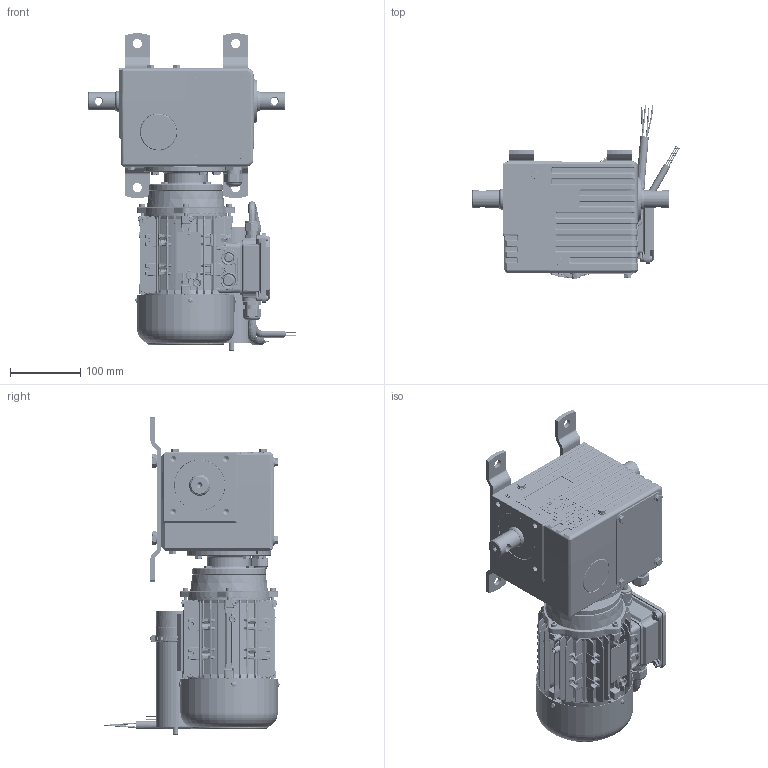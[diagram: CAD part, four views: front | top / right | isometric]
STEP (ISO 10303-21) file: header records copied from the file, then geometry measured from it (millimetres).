
FILE_DESCRIPTION (( 'STEP AP214' ), '1' );
FILE_NAME ('010202609_EWA_12_3D__DE_12212.2503.0636.STEP', '2022-10-04T14:15:28', ( '' ), ( '' ), 'SwSTEP 2.0', 'SolidWorks 2022', '' );
FILE_SCHEMA (( 'AUTOMOTIVE_DESIGN' ));
Length unit declared in the file: millimetre
Products named in the file (25): 010202609_EWA_12_3D__DE_12212.2503.0636; Elektroteil_10014336; Schraube_10028710; Deckel_10000048; Wälzlager_10001868; Montageplatte_10000170; Elektroteil_10014337; Schraube_10014320; 010194287_EWA_12_3D-Modell_DE_10194287; Schraube_10018291; Kennzeichnung_10001854; Dichtelement_10005476; 010192906_EWA_12_3D-Modell_DE_10192906_END 20-90000.0002.6290 m.SB; 010198258_EWA_3D-Modell_DE_10198258; 010191515_Normteil_Kaufteil_3D-Modell_DE_10191515; Elektroteil_10001640; 010200543_EWA_12_3D__DE; Dichtelement_10001203; 010200547_EWA_12_3D__DE_Ohne Inhalt; Schraube_10002078; 010218703_Normteil_Kaufteil_3D__DE_84204.0037.PI01; Elektroantrieb_EWA_10053437_Ohne Inhalt; Scheibe_10002061; Dichtelement_10032469; Elektroteil_10001639
Assembly tree (49 placements, depth 4):
  010202609_EWA_12_3D__DE_12212.2503.0636
    Elektroantrieb_EWA_10053437_Ohne Inhalt
      010192906_EWA_12_3D-Modell_DE_10192906_END 20-90000.0002.6290 m.SB
      Montageplatte_10000170  x2
      Schraube_10028710  x4
      Dichtelement_10001203
      Deckel_10000048
      Elektroteil_10001639
      Elektroteil_10001640
      Elektroteil_10014337
        Elektroteil_10014336
        Elektroteil_10001640
      Schraube_10018291  x4
      Scheibe_10002061  x8
      010191515_Normteil_Kaufteil_3D-Modell_DE_10191515  x4
      Dichtelement_10032469
      Wälzlager_10001868
      Dichtelement_10005476
      010194287_EWA_12_3D-Modell_DE_10194287
    Schraube_10014320
    Schraube_10002078  x4
    Kennzeichnung_10001854
    010200547_EWA_12_3D__DE_Ohne Inhalt
      010200543_EWA_12_3D__DE
      010198258_EWA_3D-Modell_DE_10198258
      Schraube_10002078  x4
    010218703_Normteil_Kaufteil_3D__DE_84204.0037.PI01
Bounding box: 295.66 x 249.24 x 452.22 mm (x, y, z)
Volume: 1637031.1 mm3; surface area: 1042805.7 mm2
Topology: 46 solids, 75 shells, 14979 faces, 37487 edges, 22688 vertices
Faces by surface type: cylinder 4603, plane 4422, bspline 3425, torus 993, sphere 769, cone 767
Entity records: 671573 total; most frequent: CARTESIAN_POINT 376864, ORIENTED_EDGE 71124, DIRECTION 42349, EDGE_CURVE 35592, VERTEX_POINT 21708, B_SPLINE_CURVE_WITH_KNOTS 19977, AXIS2_PLACEMENT_3D 16131, EDGE_LOOP 15254
